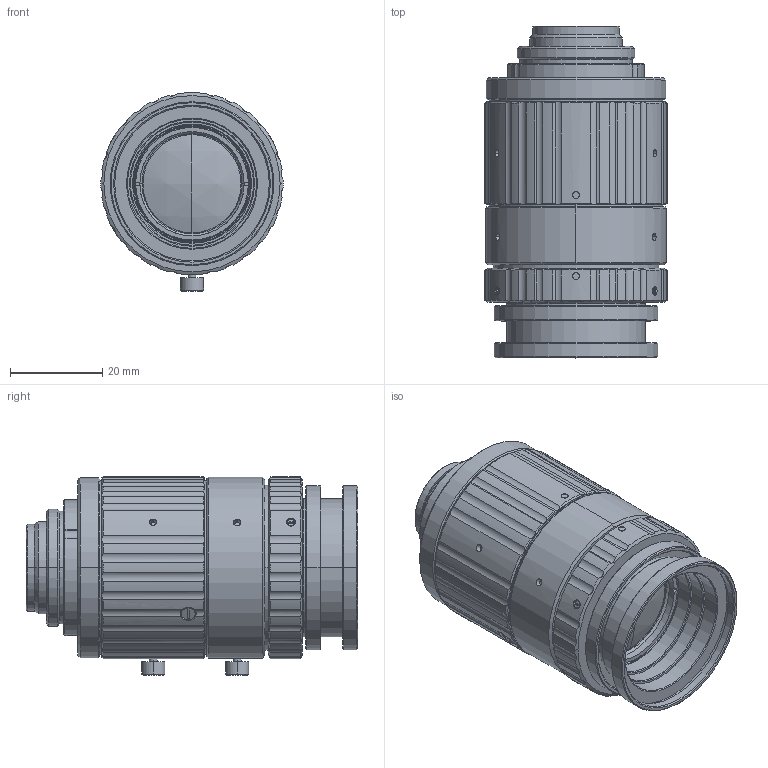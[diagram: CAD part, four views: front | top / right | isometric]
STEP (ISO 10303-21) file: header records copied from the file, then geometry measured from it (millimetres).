
FILE_DESCRIPTION (( 'STEP AP214' ), '1' );
FILE_NAME ('3D-drawing of V3522-MPZ_20190820.STEP', '2019-08-20T09:32:32', ( '' ), ( '' ), 'SwSTEP 2.0', 'SolidWorks 2013', '' );
FILE_SCHEMA (( 'AUTOMOTIVE_DESIGN' ));
Length unit declared in the file: millimetre
Products named in the file (3): V3522-MPZ_Mechnical limit_20190820; V3522-MPZ_Infinity_20190820; 3D-drawing of V3522-MPZ_20190820
Assembly tree (2 placements, depth 2):
  3D-drawing of V3522-MPZ_20190820
    V3522-MPZ_Infinity_20190820
    V3522-MPZ_Mechnical limit_20190820
Bounding box: 39.5 x 71.91 x 43.11 mm (x, y, z)
Volume: 123140.3 mm3; surface area: 26927.1 mm2
Topology: 2 solids, 10 shells, 969 faces, 2426 edges, 1564 vertices
Faces by surface type: cylinder 482, plane 293, cone 166, bspline 12, sphere 8, torus 8
Entity records: 35934 total; most frequent: CARTESIAN_POINT 8686, ORIENTED_EDGE 4852, DIRECTION 4766, EDGE_CURVE 2426, AXIS2_PLACEMENT_3D 1812, VERTEX_POINT 1564, LINE 1142, VECTOR 1142
